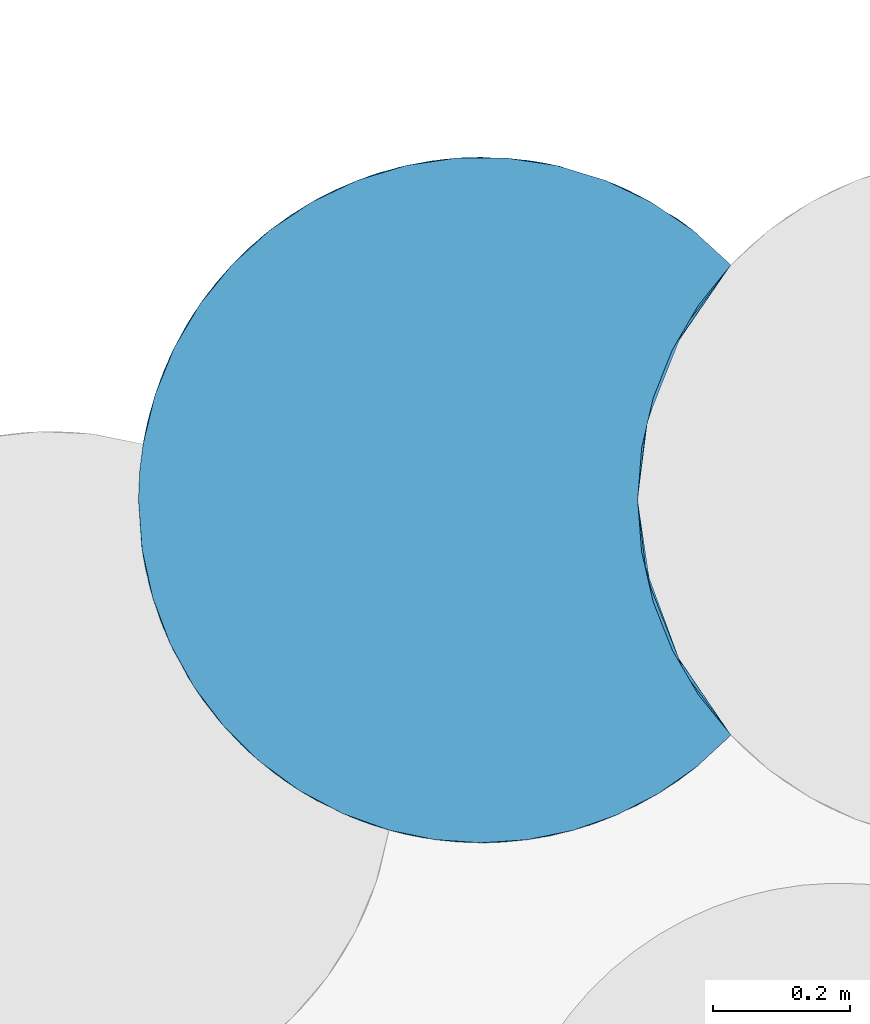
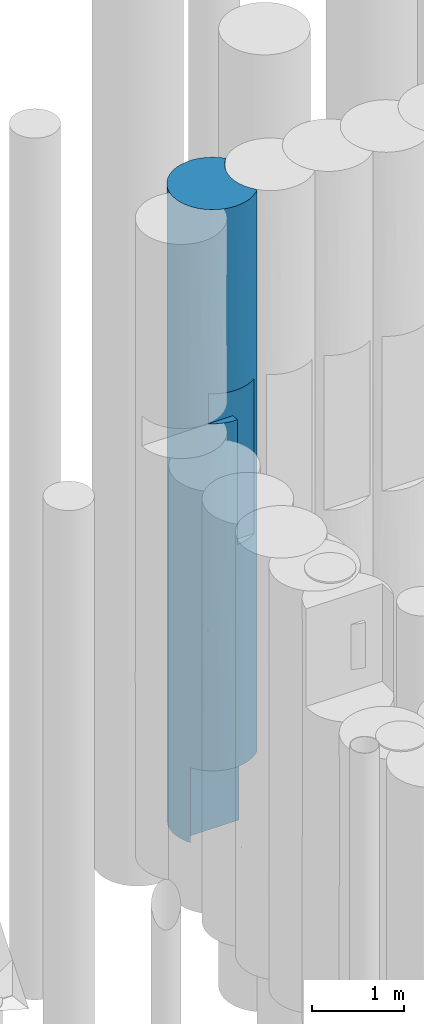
# One storey, part 59 of 104: 1 pile.
"""IFC2X3 building model written with IfcOpenShell, lengths in millimetres."""

from ifc_helpers import new_model, entity, si_unit, converted_unit, derived_unit, direction, frame, origin, place, context, subcontext, project, spatial, faceted_brep, source, transform, mapped, material, element, save


model = new_model("IFC2X3")

# Units and contexts
model_context = context("Model", 3, precision=0.01, world=origin(), true_north=direction((6.12303176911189e-17, 1.0)))
body_context = subcontext(model_context, "Body", "Model", "MODEL_VIEW")
ifc_project = project(units=[si_unit("LENGTHUNIT", "METRE", prefix="MILLI"), si_unit("AREAUNIT", "SQUARE_METRE", prefix="MILLI"), si_unit("VOLUMEUNIT", "CUBIC_METRE"), converted_unit("PLANEANGLEUNIT", "DEGREE", entity("IfcRatioMeasure", 0.0174532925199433), si_unit("PLANEANGLEUNIT", "RADIAN"), dimensions=[0, 0, 0, 0, 0, 0, 0]), si_unit("MASSUNIT", "GRAM", prefix="KILO"), derived_unit("MASSDENSITYUNIT", [(si_unit("MASSUNIT", "GRAM", prefix="KILO"), 1), (si_unit("LENGTHUNIT", "METRE"), -3)]), derived_unit("MOMENTOFINERTIAUNIT", [(si_unit("LENGTHUNIT", "METRE"), 4)]), si_unit("TIMEUNIT", "SECOND"), si_unit("FREQUENCYUNIT", "HERTZ"), si_unit("THERMODYNAMICTEMPERATUREUNIT", "DEGREE_CELSIUS"), derived_unit("THERMALTRANSMITTANCEUNIT", [(si_unit("MASSUNIT", "GRAM", prefix="KILO"), 1), (si_unit("THERMODYNAMICTEMPERATUREUNIT", "KELVIN"), -1), (si_unit("TIMEUNIT", "SECOND"), -3)]), derived_unit("VOLUMETRICFLOWRATEUNIT", [(si_unit("LENGTHUNIT", "METRE"), 3), (si_unit("TIMEUNIT", "SECOND"), -1)]), si_unit("ELECTRICCURRENTUNIT", "AMPERE"), si_unit("ELECTRICVOLTAGEUNIT", "VOLT"), si_unit("POWERUNIT", "WATT"), si_unit("FORCEUNIT", "NEWTON", prefix="KILO"), si_unit("ILLUMINANCEUNIT", "LUX"), si_unit("LUMINOUSFLUXUNIT", "LUMEN"), si_unit("LUMINOUSINTENSITYUNIT", "CANDELA"), derived_unit("USERDEFINED", [(si_unit("MASSUNIT", "GRAM", prefix="KILO"), -1), (si_unit("LENGTHUNIT", "METRE"), -2), (si_unit("TIMEUNIT", "SECOND"), 3), (si_unit("LUMINOUSFLUXUNIT", "LUMEN"), 1)]), derived_unit("LINEARVELOCITYUNIT", [(si_unit("LENGTHUNIT", "METRE"), 1), (si_unit("TIMEUNIT", "SECOND"), -1)]), si_unit("PRESSUREUNIT", "PASCAL"), derived_unit("USERDEFINED", [(si_unit("LENGTHUNIT", "METRE"), -2), (si_unit("MASSUNIT", "GRAM", prefix="KILO"), 1), (si_unit("TIMEUNIT", "SECOND"), -2)]), derived_unit("LINEARFORCEUNIT", [(si_unit("MASSUNIT", "GRAM", prefix="KILO"), 1), (si_unit("LENGTHUNIT", "METRE"), 1), (si_unit("TIMEUNIT", "SECOND"), -2), (si_unit("LENGTHUNIT", "METRE"), -1)]), derived_unit("PLANARFORCEUNIT", [(si_unit("MASSUNIT", "GRAM", prefix="KILO"), 1), (si_unit("LENGTHUNIT", "METRE"), 1), (si_unit("TIMEUNIT", "SECOND"), -2), (si_unit("LENGTHUNIT", "METRE"), -2)])], contexts=[model_context])

# Site, building, storey
site_placement = place(None, origin())
site = spatial("IfcSite", under=ifc_project, at=site_placement, Name="Theater aan de Parade", CompositionType="ELEMENT")
building_placement = place(site_placement, origin())
building = spatial("IfcBuilding", under=site, at=building_placement, Name="Theater aan de Parade", CompositionType="ELEMENT")
storey_placement = place(building_placement, frame((0.0, 0.0, -5520.0)))
storey = spatial("IfcBuildingStorey", under=building, at=storey_placement, Name="-2 kelder", CompositionType="ELEMENT", Elevation=-5520.0)

# Pile
ifc_material = material(Name="00_PBT_MAT_grout")
shared_shape = source(origin(), body_context, "Body", "Brep", [
    faceted_brep([(612.041022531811, 989.24434816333, 0.0), (682.815815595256, 967.598496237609, 0.0), (749.62068741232, 935.741896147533, 0.0), (810.991949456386, 894.372058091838, 0.0), (865.595272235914, 844.383718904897, 0.0), (818.150067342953, 785.695213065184, 0.0), (780.078223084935, 720.534466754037, 0.0), (752.247075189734, 650.385942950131, 0.0), (735.29066042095, 576.847733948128, 0.0), (729.595272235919, 501.595154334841, 0.0), (734.989545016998, 428.347802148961, 0.0), (751.055970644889, 356.680914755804, 0.0), (73.5953162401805, 356.680914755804, 0.0), (73.5953162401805, 243.10717073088, 0.0), (42.5391179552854, 303.434998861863, 0.0), (19.935875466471, 367.415329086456, 0.0), (6.20355036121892, 433.867450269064, 0.0), (1.5952722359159, 501.595154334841, 0.0), (3.27499039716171, 542.545083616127, 0.0), (8.28394751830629, 583.10123849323, 0.0), (25.7241273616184, 655.044342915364, 0.0), (53.5913850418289, 723.614336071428, 0.0), (91.2751009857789, 787.317671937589, 0.0), (137.949076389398, 844.759028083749, 0.0), (192.590307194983, 894.680299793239, 0.0), (254.001406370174, 935.988153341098, 0.0), (320.8368208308, 967.77793205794, 0.0), (391.63228365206, 989.353435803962, 0.0), (464.836858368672, 1000.24214270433, 0.0), (538.846875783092, 1000.20554134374, 0.0), (865.595272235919, 844.383718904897, 1561.53780933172), (789.449856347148, 910.422426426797, 1490.60328324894), (799.731437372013, 902.986269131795, 2504.18996921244), (113.54777271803, 816.903159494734, 1322.94888298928), (38.387187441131, 689.845705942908, 1318.21289162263), (71.2528779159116, 756.164248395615, 2507.29057957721), (716.80850077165, 952.907979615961, 974.494281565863), (91.2751011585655, 787.31767218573, 8470.0), (71.2528782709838, 756.164248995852, 7547.2009060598), (53.5913851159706, 723.614336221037, 8470.0), (789.449855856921, 910.422426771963, 6979.39671024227), (810.991949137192, 894.372058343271, 8470.0), (865.595272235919, 844.383718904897, 6908.46219066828), (286.830111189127, 953.121372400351, 7458.43310862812), (192.590307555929, 894.680300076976, 8470.0), (254.001406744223, 935.988153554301, 8470.0), (222.530495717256, 916.472064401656, 1002.99288904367), (355.834802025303, 979.877377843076, 1452.35420050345), (501.842543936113, 1001.59509319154, 2596.13609390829), (575.647037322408, 996.081085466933, 1364.99246955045), (463.287910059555, 1000.12554057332, 1075.03150515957), (616.280770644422, 988.264689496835, 2439.92595922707), (222.530495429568, 916.472064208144, 2062.15676402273), (138.350972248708, 845.184412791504, 2309.45405444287), (716.808500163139, 952.907979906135, 2006.71228639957), (575.647037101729, 996.081085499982, 7151.07306427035), (716.808500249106, 952.907979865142, 7495.50571490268), (716.808499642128, 952.907980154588, 6463.28770570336), (538.846875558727, 1000.2055413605, 8470.0), (612.041022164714, 989.244348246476, 8470.0), (15.6727532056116, 619.40561863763, 7547.20805965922), (3.27499040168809, 542.545083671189, 8470.0), (8.28646738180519, 583.120751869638, 8470.0), (692.491411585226, 963.719232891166, 4235.0), (785.386872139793, 913.253177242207, 4790.96227754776), (794.538391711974, 906.791808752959, 3679.03770634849), (865.595272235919, 844.383718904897, 5346.92438133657), (790.88995915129, 909.404649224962, 5812.76055909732), (464.836858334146, 1000.24214270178, 8470.0), (865.595272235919, 844.383718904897, 8470.0), (682.81581516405, 967.598496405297, 8470.0), (749.620687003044, 935.741896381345, 8470.0), (1.59527223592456, 501.595154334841, 1561.53750746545), (9.65538157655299, 591.010723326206, 997.525756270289), (18.1616587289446, 629.235043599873, 3871.7555921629), (1.59527223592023, 501.595154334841, 4234.99353122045), (8.69020370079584, 585.527230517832, 4790.96229147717), (391.632283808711, 989.353435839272, 8470.0), (428.032825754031, 996.154115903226, 7105.007760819), (195.304237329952, 896.798648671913, 6007.57478072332), (164.344728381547, 870.732081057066, 7104.99268640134), (286.830110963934, 953.121372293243, 6391.14736786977), (25.7241273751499, 655.044342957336, 8470.0), (179.932089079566, 884.391179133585, 3284.4303736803), (261.083690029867, 939.949096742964, 3365.9237831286), (16.921993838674, 624.443895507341, 2469.98171374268), (46.1944291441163, 708.017227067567, 3315.13288371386), (93.2634442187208, 790.152112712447, 3295.19836846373), (83.6411278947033, 776.029724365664, 6659.58558389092), (38.3871875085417, 689.845706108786, 6837.26101566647), (501.842544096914, 1001.59509319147, 5873.86389932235), (569.569744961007, 996.953076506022, 4753.3849723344), (474.336960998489, 1000.85158590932, 4998.84414583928), (337.621116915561, 973.942988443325, 2883.86975398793), (51.5214276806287, 719.387565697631, 5988.00300072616), (12.7280166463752, 606.518013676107, 6080.01081591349), (1.59527223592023, 501.595154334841, 6908.46249253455), (444.606543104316, 998.336822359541, 4031.03266754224), (137.949076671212, 844.759028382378, 8470.0), (712.594876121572, 954.893254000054, 3129.57912045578), (591.983791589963, 993.357206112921, 3487.81810190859), (268.626443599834, 944.00393011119, 5313.07368361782), (386.424117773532, 988.149986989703, 6192.70827613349), (320.836821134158, 967.777932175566, 8470.0), (865.595272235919, 844.383718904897, 5571.73180767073), (1.59527223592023, 501.595154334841, 8470.0), (378.990295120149, 986.330153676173, 5203.25410431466), (613.907401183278, 988.817881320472, 6107.65280275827), (1.5952722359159, 501.595154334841, 2229.89939534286), (1.5952722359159, 501.595154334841, 2898.26817526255), (1.59527223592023, 501.595154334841, 3123.07501493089), (113.547772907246, 816.903159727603, 5873.84325243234), (692.629367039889, 963.662221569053, 5362.41365555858), (32.9789528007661, 675.947513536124, 5199.95149576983), (79.9812064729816, 770.373091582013, 5043.78858137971), (51.0568712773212, 718.424924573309, 4258.77028581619), (185.903467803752, 889.330482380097, 4599.42724789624), (105.173055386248, 806.307192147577, 4146.8413749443), (286.830110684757, 953.121372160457, 4235.0), (1.59527223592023, 501.595154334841, 5346.9249850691), (1.59527223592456, 501.595154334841, 5571.74329494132), (865.595272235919, 844.383718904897, 3123.07561866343), (865.595272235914, 844.383718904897, 2898.26819232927), (865.595272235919, 844.383718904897, 4235.0), (16.8116956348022, 379.182394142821, 1190.23643305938), (73.5953162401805, 243.107170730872, 1000.0), (364.726775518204, 20.6928621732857, 3504.39460183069), (504.527248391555, 1.6037508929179, 2843.72367260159), (523.595272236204, 2.07938881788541, 3960.0), (594.251896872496, 10.2554043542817, 3960.0), (602.555886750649, 11.8942718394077, 2464.53444641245), (700.096378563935, 42.6863281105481, 2328.31685987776), (635.596958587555, 19.8861674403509, 1000.0), (33.7547133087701, 325.171767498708, 7133.67009170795), (95.7379301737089, 209.568070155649, 7598.05141263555), (47.6832974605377, 291.919406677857, 8470.0), (94.304918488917, 211.570038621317, 1889.55646598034), (117.333596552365, 181.68428455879, 1000.0), (213.720794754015, 92.7818898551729, 6020.0), (261.945319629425, 62.7695623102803, 6020.0), (239.439848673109, 75.8316825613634, 7035.14388748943), (22.9459684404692, 357.044664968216, 2366.93315844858), (296.037059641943, 45.8037313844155, 1000.0), (366.90568457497, 20.0780570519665, 1000.0), (330.985794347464, 31.6032330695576, 1928.50511606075), (759.662509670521, 73.341373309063, 3053.24127799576), (728.547998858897, 56.0702281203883, 3960.0), (662.679694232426, 28.2540416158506, 3102.52902512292), (467.275437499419, 2.77439600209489, 1922.08738035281), (313.222359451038, 38.4368166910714, 5620.0), (392.512673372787, 13.6392274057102, 4364.77521227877), (366.920459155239, 20.0739245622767, 5620.0), (237.405859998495, 77.0907910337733, 4483.11946986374), (153.88437331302, 142.294262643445, 3899.88107483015), (237.405859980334, 77.0907910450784, 3316.64268025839), (523.595272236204, 2.07938881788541, 4839.23114665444), (523.595272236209, 2.07938881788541, 5620.0), (470.814165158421, 2.54353030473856, 5620.0), (169.810845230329, 127.537546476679, 1000.0), (229.833744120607, 81.8980351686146, 1000.0), (198.960721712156, 103.58469111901, 2172.12347836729), (121.004364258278, 177.325882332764, 5820.0), (150.848911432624, 145.256845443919, 7151.58313471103), (213.720794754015, 92.7818898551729, 5620.0), (261.94393251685, 62.7703198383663, 5620.0), (8.46432332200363, 419.000558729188, 7506.28350838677), (22.2583852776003, 359.341336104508, 8470.0), (6.78845148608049, 429.718801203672, 8470.0), (433.457636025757, 6.25964931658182, 1000.0), (501.251904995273, 1.5952722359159, 1000.0), (11.9038036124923, 400.588889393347, 6240.09671876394), (21.7047349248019, 361.220398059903, 4671.16790079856), (51.4394470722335, 283.972239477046, 5820.0), (699.671972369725, 42.502983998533, 1000.0), (760.092008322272, 73.6004844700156, 1000.0), (865.595272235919, 158.806589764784, 2867.5), (789.469749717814, 92.7818898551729, 3960.0), (788.568955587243, 92.1490589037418, 7327.01325534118), (668.00472616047, 30.0997740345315, 7262.98257053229), (726.162945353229, 54.8632882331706, 6020.0), (82.7560867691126, 228.513231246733, 6725.19060713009), (177.434810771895, 120.91156495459, 8470.0), (126.08619535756, 171.454376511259, 8470.0), (418.408733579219, 8.56371539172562, 5620.0), (699.658596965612, 42.4972133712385, 8470.0), (760.080549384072, 73.5935638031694, 8470.0), (313.194020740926, 38.4483434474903, 6020.0), (635.581601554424, 19.8818956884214, 8470.0), (569.032380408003, 6.16379032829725, 8470.0), (586.365077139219, 8.83346733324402, 6020.0), (535.213302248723, 2.72660646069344, 7256.33484704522), (512.918026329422, 1.72337553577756, 6020.0), (339.788843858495, 28.5003649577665, 7245.00467510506), (569.048141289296, 6.16593592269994, 1000.0), (235.513351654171, 78.2744584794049, 8470.0), (366.905490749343, 20.0781112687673, 6020.0), (436.037928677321, 5.91155090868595, 7519.79818105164), (366.910090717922, 20.0768245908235, 8470.0), (439.225225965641, 5.500428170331, 6020.0), (299.115744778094, 44.4277441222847, 8470.0), (163.051898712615, 133.643548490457, 2986.26246105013), (160.089594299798, 136.391277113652, 4875.59279045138), (399.9465744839, 12.0366366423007, 2668.59942169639), (815.738379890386, 112.604013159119, 1000.0), (788.578575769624, 92.1558016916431, 2142.93506970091), (433.451650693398, 6.26047268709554, 8470.0), (501.238835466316, 1.59528138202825, 8470.0), (865.595272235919, 158.806589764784, 6602.49999999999), (865.59527223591, 158.806589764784, 6908.48300862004), (865.595272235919, 158.806589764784, 7536.24999999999), (657.96674354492, 26.6762528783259, 6020.0), (10.3817071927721, 408.271880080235, 3827.0216914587), (38.1738921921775, 313.870290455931, 3526.70852579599), (865.595272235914, 158.806589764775, 1933.75), (815.730515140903, 112.597661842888, 8470.0), (82.5340585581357, 228.854069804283, 8470.0), (82.8132346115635, 228.425600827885, 4384.06534827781), (307.852824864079, 40.6571280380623, 2795.5007570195), (789.469749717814, 92.7818898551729, 6020.0), (789.469749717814, 92.7818898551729, 4990.0), (865.59527223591, 158.806589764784, 3648.28895539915), (865.595272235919, 158.806589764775, 3801.24999999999), (865.595272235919, 158.806589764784, 4735.0), (865.595272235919, 158.806589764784, 5668.74999999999), (865.595272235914, 158.806589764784, 5821.74150431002), (94.3049185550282, 211.570038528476, 2844.30985056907), (865.595272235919, 158.806589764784, 8470.0), (663.033445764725, 28.3745756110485, 3960.0), (865.595272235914, 158.806589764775, 1000.0), (865.595272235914, 158.806589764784, 2561.54745108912), (818.150067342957, 217.495095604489, 8470.0), (780.078223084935, 282.655841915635, 8470.0), (752.247075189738, 352.80436571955, 8470.0), (735.29066042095, 426.342574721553, 8470.0), (729.595272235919, 501.595154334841, 8470.0), (735.29066042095, 576.847733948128, 8470.0), (752.247075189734, 650.385942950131, 8470.0), (780.078223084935, 720.534466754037, 8470.0), (818.150067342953, 785.695213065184, 8470.0), (523.595272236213, 92.7818898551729, 5620.0), (523.595272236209, 92.7818898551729, 4460.0), (523.595272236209, 92.7818898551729, 3960.0), (73.5953162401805, 356.680914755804, 1000.0), (751.055970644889, 356.680914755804, 1000.0), (778.900945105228, 285.089672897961, 1000.0), (817.383474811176, 218.608522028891, 1000.0), (742.379444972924, 613.937210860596, 959.062888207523), (738.151011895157, 593.695854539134, 6638.44327873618), (742.379444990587, 613.937210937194, 7510.93711044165), (729.595272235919, 501.595154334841, 6908.45976131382), (808.681716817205, 771.468789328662, 6638.44327726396), (781.985001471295, 724.406836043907, 5169.2873084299), (797.883005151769, 753.83416489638, 959.062888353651), (764.837270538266, 685.986043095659, 1706.36651512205), (797.883005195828, 753.834164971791, 7510.93711014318), (729.595272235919, 501.595154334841, 1561.54023868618), (729.595272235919, 501.595154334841, 1058.75298998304), (808.681716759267, 771.468789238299, 1831.55672113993), (778.799150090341, 717.888603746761, 2630.65322090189), (766.296890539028, 689.623369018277, 3566.63442778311), (739.967026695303, 602.907449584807, 2500.19182196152), (729.595272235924, 501.595154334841, 3123.08047737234), (729.595272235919, 501.595154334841, 2117.50597996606), (764.837270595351, 685.986043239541, 6763.63348211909), (798.309538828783, 754.562773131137, 4260.62631723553), (810.907944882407, 774.909848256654, 3324.34692372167), (745.175048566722, 625.437985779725, 5612.66192558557), (744.930852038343, 624.478838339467, 4544.2932330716), (738.502483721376, 595.551916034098, 3413.30504808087), (729.595272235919, 501.595154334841, 4235.01242423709), (729.595272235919, 501.595154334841, 5571.72573206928), (729.595272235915, 501.595154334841, 5346.93194686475), (729.595272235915, 501.595154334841, 3176.24701001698), (737.652631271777, 412.194718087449, 1740.61215192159), (796.863622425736, 251.108988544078, 1977.49082641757), (808.103941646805, 232.624787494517, 2870.31406883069), (797.883005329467, 249.356143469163, 7510.93711074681), (762.458274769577, 323.317209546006, 4903.36557316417), (741.179889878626, 394.588545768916, 5988.20523574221), (778.685121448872, 285.539522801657, 5822.23176538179), (742.379445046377, 389.253097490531, 7510.93711054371), (764.837270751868, 317.204265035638, 6763.63348277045), (808.681717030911, 231.721519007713, 6638.44327929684), (736.645152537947, 417.928079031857, 2646.87500001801), (763.601591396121, 320.349769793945, 2739.79071288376), (736.819640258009, 416.906450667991, 5098.32805872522), (739.996017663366, 400.14285065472, 3705.62500000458), (776.673795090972, 289.788318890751, 3825.90126919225), (807.285378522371, 233.911845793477, 5061.92209300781)], [[[0, 1, 2, 3, 4, 5, 6, 7, 8, 9, 10, 11, 12, 13, 14, 15, 16, 17, 18, 19, 20, 21, 22, 23, 24, 25, 26, 27, 28, 29]], [[30, 31, 32]], [[33, 34, 35]], [[2, 1, 36]], [[37, 38, 39]], [[40, 41, 42]], [[43, 44, 45]], [[26, 46, 47]], [[48, 49, 50]], [[25, 46, 26]], [[51, 49, 48]], [[33, 52, 46]], [[29, 50, 49]], [[27, 47, 50]], [[53, 33, 35]], [[49, 54, 36]], [[55, 56, 57]], [[58, 59, 55]], [[60, 61, 62]], [[31, 3, 36]], [[46, 23, 33]], [[63, 64, 65]], [[26, 47, 27]], [[66, 64, 67]], [[68, 58, 55]], [[57, 56, 40]], [[31, 36, 54]], [[41, 69, 42]], [[4, 3, 30]], [[56, 70, 71]], [[33, 22, 34]], [[17, 72, 73]], [[59, 56, 55]], [[25, 24, 46]], [[74, 75, 76]], [[28, 50, 29]], [[77, 68, 78]], [[79, 80, 81]], [[21, 20, 34]], [[82, 60, 62]], [[21, 34, 22]], [[82, 39, 60]], [[83, 84, 52]], [[34, 85, 35]], [[35, 86, 87]], [[39, 38, 60]], [[38, 88, 89]], [[90, 91, 92]], [[73, 18, 17]], [[34, 20, 73]], [[52, 93, 47]], [[88, 94, 89]], [[60, 38, 89]], [[2, 36, 3]], [[22, 33, 23]], [[60, 95, 96]], [[77, 78, 43]], [[29, 49, 0]], [[85, 74, 86]], [[93, 97, 48]], [[95, 89, 94]], [[38, 98, 80]], [[43, 80, 44]], [[65, 32, 99]], [[100, 63, 99]], [[80, 98, 44]], [[36, 0, 49]], [[101, 81, 102]], [[55, 78, 68]], [[55, 90, 78]], [[45, 103, 43]], [[67, 42, 104, 66]], [[96, 105, 61]], [[102, 90, 106]], [[78, 81, 43]], [[56, 59, 70]], [[107, 55, 57]], [[73, 20, 19]], [[85, 72, 108, 109, 110]], [[46, 24, 23]], [[47, 46, 52]], [[43, 103, 77]], [[80, 43, 81]], [[36, 1, 0]], [[56, 71, 41]], [[98, 38, 37]], [[88, 80, 111]], [[95, 60, 89]], [[61, 60, 96]], [[51, 99, 54]], [[112, 57, 67]], [[113, 94, 114]], [[115, 86, 74]], [[111, 79, 116]], [[117, 116, 83]], [[97, 93, 118]], [[48, 47, 93]], [[106, 97, 118]], [[100, 91, 63]], [[85, 34, 73]], [[74, 85, 110]], [[75, 119, 76]], [[113, 114, 115]], [[80, 88, 38]], [[111, 114, 94]], [[111, 94, 88]], [[95, 94, 113]], [[76, 95, 113]], [[95, 119, 120, 96]], [[32, 31, 54]], [[3, 31, 30]], [[99, 32, 54]], [[32, 121, 122, 30]], [[100, 51, 48]], [[64, 66, 123]], [[48, 97, 100]], [[106, 92, 97]], [[97, 91, 100]], [[112, 107, 57]], [[64, 123, 65]], [[121, 65, 123]], [[64, 63, 112]], [[63, 91, 112]], [[107, 91, 90]], [[91, 107, 112]], [[55, 107, 90]], [[32, 65, 121]], [[65, 99, 63]], [[112, 67, 64]], [[67, 57, 40]], [[41, 40, 56]], [[67, 40, 42]], [[99, 51, 100]], [[49, 51, 54]], [[101, 106, 118]], [[106, 101, 102]], [[116, 101, 118]], [[79, 81, 101]], [[118, 93, 84]], [[116, 117, 114]], [[84, 116, 118]], [[53, 52, 33]], [[116, 79, 101]], [[80, 79, 111]], [[74, 110, 75]], [[95, 76, 119]], [[76, 113, 115]], [[87, 53, 35]], [[83, 52, 53]], [[27, 50, 28]], [[48, 50, 47]], [[18, 73, 19]], [[85, 73, 72]], [[116, 114, 111]], [[115, 114, 117]], [[87, 86, 115]], [[115, 74, 76]], [[87, 115, 117]], [[85, 86, 35]], [[117, 83, 87]], [[53, 87, 83]], [[97, 92, 91]], [[106, 90, 92]], [[81, 78, 102]], [[90, 102, 78]], [[52, 84, 93]], [[116, 84, 83]], [[124, 14, 125]], [[126, 127, 128]], [[129, 127, 130]], [[125, 14, 13]], [[72, 17, 16]], [[131, 130, 132]], [[133, 134, 135]], [[136, 125, 137]], [[138, 139, 140]], [[141, 125, 136]], [[142, 143, 144]], [[145, 146, 147]], [[148, 144, 143]], [[149, 150, 151]], [[152, 153, 154]], [[155, 156, 157]], [[158, 159, 160]], [[159, 142, 144]], [[161, 138, 162]], [[163, 152, 164]], [[150, 149, 152]], [[165, 166, 167]], [[164, 152, 149]], [[16, 15, 124]], [[168, 169, 148]], [[166, 133, 135]], [[170, 171, 172]], [[105, 96, 165]], [[131, 173, 174]], [[175, 176, 145]], [[177, 178, 179]], [[180, 133, 172]], [[128, 155, 150]], [[133, 180, 134]], [[162, 181, 182]], [[155, 183, 150]], [[138, 161, 163]], [[184, 177, 185]], [[140, 139, 186]], [[178, 187, 188]], [[152, 154, 126]], [[189, 190, 191]], [[129, 128, 127]], [[192, 140, 186]], [[193, 148, 169]], [[140, 194, 181]], [[192, 186, 195]], [[192, 196, 197]], [[195, 198, 192]], [[127, 148, 130]], [[199, 194, 140]], [[181, 162, 140]], [[160, 136, 158]], [[200, 136, 160]], [[148, 143, 168]], [[152, 163, 201]], [[130, 148, 193]], [[197, 199, 192]], [[132, 173, 131]], [[202, 144, 148]], [[72, 124, 141]], [[200, 154, 153]], [[155, 157, 183]], [[148, 127, 202]], [[150, 183, 151]], [[161, 162, 180]], [[193, 132, 130]], [[128, 150, 126]], [[203, 204, 174]], [[205, 196, 206]], [[177, 207, 208, 209]], [[179, 178, 210]], [[211, 141, 212]], [[203, 213, 204]], [[129, 130, 147]], [[174, 204, 131]], [[146, 145, 176]], [[147, 130, 131]], [[204, 145, 131]], [[171, 170, 120]], [[214, 177, 209]], [[134, 182, 215]], [[152, 201, 153]], [[212, 216, 171]], [[217, 160, 144]], [[161, 172, 216]], [[125, 141, 124]], [[191, 190, 198]], [[175, 145, 204]], [[205, 197, 196]], [[178, 188, 190]], [[188, 206, 190]], [[210, 178, 189]], [[217, 144, 202]], [[153, 201, 216]], [[196, 198, 190]], [[184, 187, 178]], [[189, 178, 190]], [[177, 179, 218]], [[165, 133, 166]], [[219, 176, 175, 220, 221, 222, 223, 224, 207, 218]], [[207, 177, 218]], [[136, 225, 141]], [[177, 184, 178]], [[171, 211, 212]], [[226, 214, 209]], [[185, 177, 214]], [[212, 225, 216]], [[136, 137, 158]], [[159, 144, 160]], [[171, 216, 172]], [[126, 154, 217]], [[154, 200, 160]], [[146, 227, 147]], [[225, 153, 216]], [[126, 217, 202]], [[160, 217, 154]], [[126, 202, 127]], [[126, 150, 152]], [[145, 147, 131]], [[129, 147, 227]], [[120, 170, 96]], [[171, 75, 211]], [[165, 170, 133]], [[171, 120, 119, 75]], [[225, 212, 141]], [[163, 161, 201]], [[141, 109, 108, 72]], [[216, 201, 161]], [[172, 133, 170]], [[153, 225, 200]], [[136, 200, 225]], [[140, 192, 199]], [[138, 140, 162]], [[198, 196, 192]], [[206, 196, 190]], [[161, 180, 172]], [[134, 180, 162]], [[182, 134, 162]], [[134, 215, 135]], [[105, 165, 167]], [[170, 165, 96]], [[213, 203, 228]], [[204, 213, 229, 175]], [[16, 124, 72]], [[124, 15, 14]], [[211, 75, 110, 109]], [[141, 211, 109]], [[71, 70, 59, 58, 68, 77, 103, 45, 44, 98, 37, 39, 82, 62, 61, 105, 167, 166, 135, 215, 182, 181, 194, 199, 197, 205, 206, 188, 187, 184, 185, 214, 226, 230, 231, 232, 233, 234, 235, 236, 237, 238, 69, 41]], [[239, 163, 164, 149, 151, 183, 157, 156]], [[195, 186, 139, 138, 218, 179, 210, 189, 191, 198]], [[240, 241, 176, 219, 218, 138, 163, 239]], [[146, 176, 241, 128, 129, 227]], [[240, 239, 156, 155, 128, 241]], [[137, 125, 242, 243, 244, 245, 228, 203, 174, 173, 132, 193, 169, 168, 143, 142, 159, 158]], [[242, 125, 13, 12]], [[243, 242, 12, 11]], [[8, 7, 246]], [[247, 248, 249]], [[104, 250, 251]], [[246, 252, 253]], [[4, 252, 5]], [[246, 7, 252]], [[254, 42, 69]], [[246, 255, 256, 9]], [[249, 248, 234]], [[235, 234, 248]], [[253, 252, 257]], [[258, 259, 260]], [[260, 261, 262, 255]], [[238, 237, 254]], [[248, 263, 254]], [[258, 257, 122]], [[264, 259, 265]], [[248, 254, 237, 236]], [[236, 235, 248]], [[6, 5, 252]], [[266, 267, 251]], [[252, 7, 6]], [[30, 252, 4]], [[8, 246, 9]], [[255, 246, 260]], [[263, 248, 247]], [[238, 254, 69]], [[42, 254, 250]], [[122, 265, 258]], [[257, 252, 30]], [[268, 260, 259]], [[267, 268, 259]], [[254, 263, 250]], [[253, 257, 258]], [[257, 30, 122]], [[253, 258, 260]], [[265, 259, 258]], [[246, 253, 260]], [[268, 261, 260]], [[264, 267, 259]], [[265, 122, 121, 123]], [[267, 269, 268]], [[264, 265, 123]], [[251, 263, 266]], [[247, 249, 270, 271]], [[264, 123, 66, 104]], [[250, 263, 251]], [[104, 42, 250]], [[104, 251, 264]], [[264, 251, 267]], [[247, 271, 266]], [[267, 266, 271]], [[247, 266, 263]], [[268, 269, 272, 261]], [[267, 271, 269]], [[273, 256, 255, 262]], [[229, 274, 275]], [[245, 274, 228]], [[11, 10, 243]], [[230, 226, 276]], [[273, 243, 256]], [[277, 278, 279]], [[280, 249, 234]], [[233, 232, 280]], [[281, 276, 282]], [[283, 284, 273]], [[245, 244, 274]], [[273, 284, 274]], [[231, 276, 280, 232]], [[274, 229, 213, 228]], [[276, 281, 280]], [[283, 262, 261, 272]], [[243, 274, 244]], [[275, 274, 284]], [[278, 277, 285]], [[269, 286, 272]], [[282, 276, 208]], [[231, 230, 276]], [[276, 226, 209, 208]], [[233, 280, 234]], [[249, 280, 278]], [[278, 270, 249]], [[284, 287, 275]], [[281, 279, 278]], [[287, 222, 221, 220]], [[287, 288, 222]], [[287, 220, 275]], [[287, 284, 286]], [[275, 220, 175, 229]], [[286, 285, 277]], [[283, 272, 286]], [[287, 286, 277]], [[262, 283, 273]], [[284, 283, 286]], [[256, 243, 10]], [[274, 243, 273]], [[281, 282, 279]], [[256, 10, 9]], [[279, 282, 224]], [[279, 224, 288]], [[282, 208, 207, 224]], [[288, 277, 279]], [[280, 281, 278]], [[285, 270, 278]], [[277, 288, 287]], [[288, 224, 223, 222]], [[285, 269, 271, 270]], [[269, 285, 286]]]),
])
pile_placement = place(storey_placement, frame((34880.2628578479, 43807.2181101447, -3840.0)))
element("IfcPile", 1, at=pile_placement, inside=storey, material=ifc_material, Name="17_PBT_SFO_grondkering_rond:Ø1000 (grondkering)", ObjectType="17_PBT_SFO_grondkering_rond:Ø1000 (grondkering)", PredefinedType="NOTDEFINED", context=body_context, shape_type="MappedRepresentation", body=[
    mapped(shared_shape, transform((0.0, 0.0, 0.0), scale=1.0)),
])

save(model, "model.ifc")
